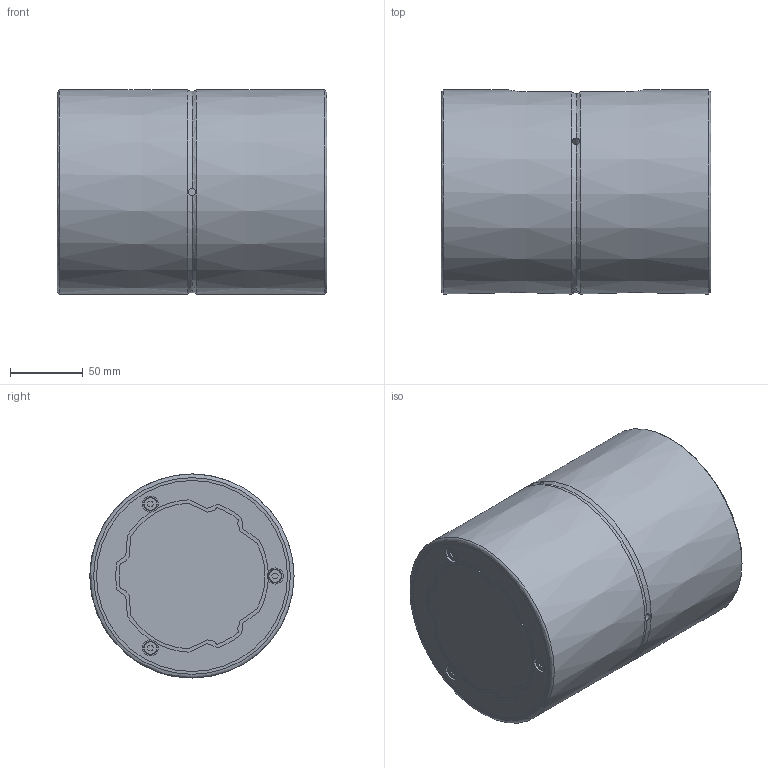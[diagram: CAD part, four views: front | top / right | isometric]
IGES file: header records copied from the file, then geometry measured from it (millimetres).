
Start section: Data from Parasolid IGES Translator 26.0.171, Copyright(c) 2006 Siemens PLM Software. All Rights Reserved.
Global section: file name: SLS100L1185(00).igs; native system: By Siemens PLM Incorporated; preprocessor: XPlus GENERIC/IGES 26.0.171; author: Noname; organization: Noname; date: 20240523.114743; units: millimetre
Bounding box: 185 x 140 x 140 mm (x, y, z)
Surface area: 235564.4 mm2 (no closed solid volume)
Topology: 0 solids, 0 shells, 257 faces, 1394 edges, 1355 vertices
Faces by surface type: extrusion 140, revolution 117
